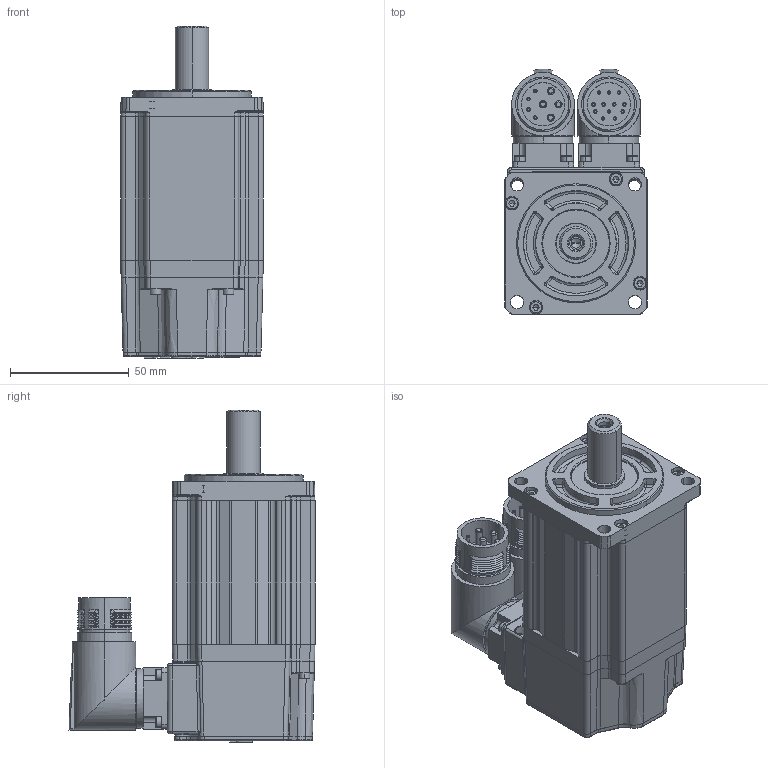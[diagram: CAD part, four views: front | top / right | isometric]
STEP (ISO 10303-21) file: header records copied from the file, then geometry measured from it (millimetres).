
FILE_DESCRIPTION (( 'STEP AP203' ), '1' );
FILE_NAME ('MC20-060-3L30-N401-0¡õPL-NNNN.STEP', '2025-07-29T14:35:06', ( '' ), ( '' ), 'SwSTEP 2.0', 'SolidWorks 2014', '' );
FILE_SCHEMA (( 'CONFIG_CONTROL_DESIGN' ));
Length unit declared in the file: millimetre
Products named in the file (1): MC20-060-3L30-N401-0¡õPL-NNNN
Bounding box: 60 x 103.37 x 139.5 mm (x, y, z)
Volume: 408753.6 mm3; surface area: 91601.8 mm2
Topology: 23 solids, 23 shells, 1869 faces, 4434 edges, 2678 vertices
Faces by surface type: plane 737, cylinder 514, cone 341, bspline 131, torus 126, sphere 20
Entity records: 55818 total; most frequent: CARTESIAN_POINT 13635, DIRECTION 8854, ORIENTED_EDGE 8720, EDGE_CURVE 4360, AXIS2_PLACEMENT_3D 3368, VERTEX_POINT 2678, LINE 2118, VECTOR 2118
